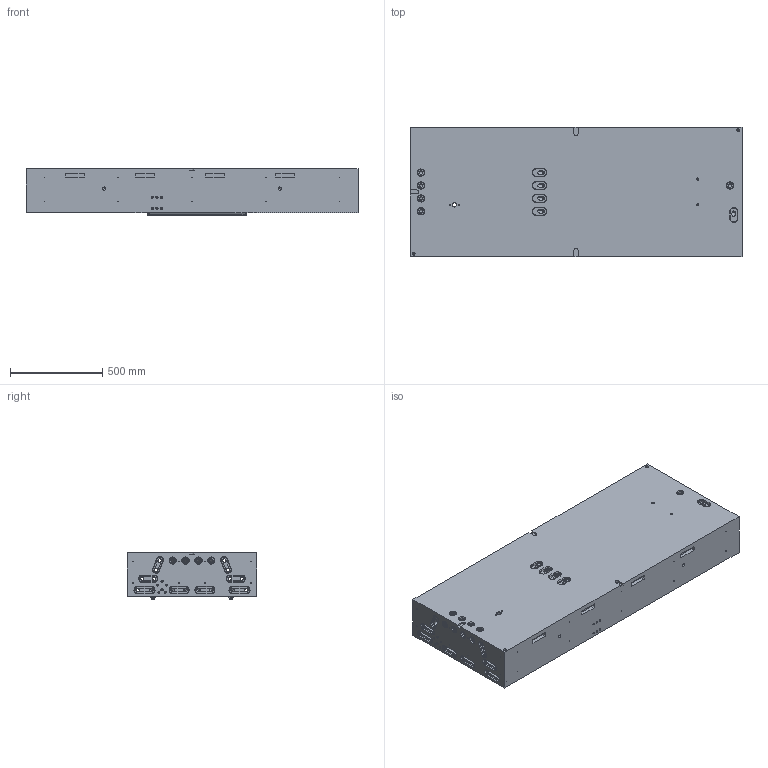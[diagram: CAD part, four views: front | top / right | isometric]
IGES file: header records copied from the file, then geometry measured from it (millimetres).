
Start section: START RECORD GO HERE.
Global section: file name: B-701-A-bloc_superieur_LDB.igs; native system: IBM CATIA IGES - CATIA Version 5 Release 18 ; preprocessor: CATIA Version 5 Release 18 ; author: e-terrisse; organization: ORDIMOULE; date: 20110106.104959; units: millimetre
Bounding box: 1800 x 700 x 252.45 mm (x, y, z)
Surface area: 6058193.9 mm2 (no closed solid volume)
Topology: 0 solids, 2090 shells, 2090 faces, 11278 edges, 11138 vertices
Faces by surface type: plane 1104, revolution 790, bspline 196
